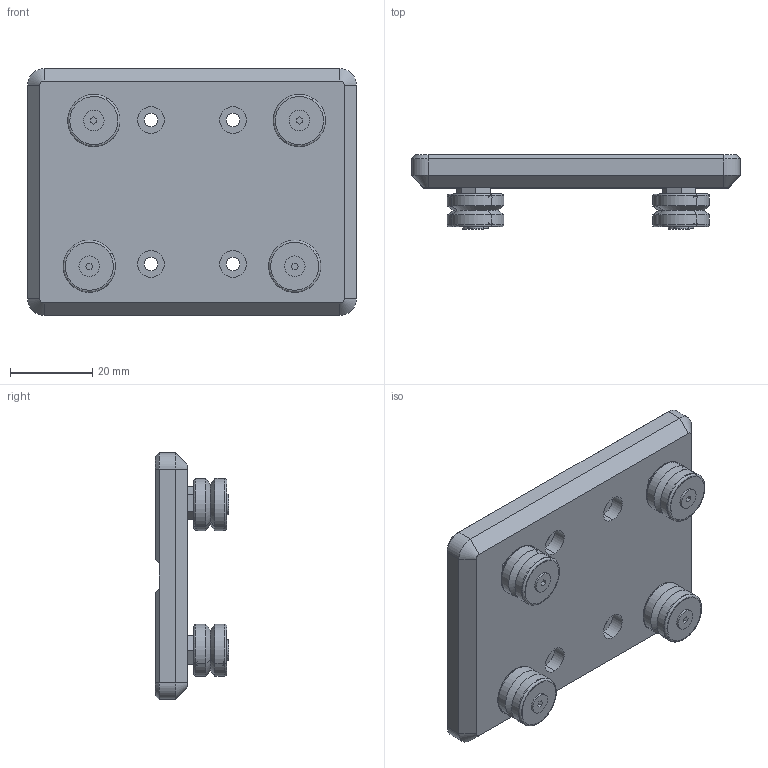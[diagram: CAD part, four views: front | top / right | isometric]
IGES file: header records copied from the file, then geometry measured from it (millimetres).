
Start section: 3D InterOp IGES (Version 21 0 1), Spatial Corp. Copyright (c) 1999-2007.
Global section: file name: RG-80(GF-25N).igs; native system: Spatial Corp.; preprocessor: 3D InterOp GENERIC/IGES 3.0; author: Noname; organization: Noname; date: 20220328.105956; units: millimetre
Bounding box: 80 x 18 x 60 mm (x, y, z)
Surface area: 17912.6 mm2 (no closed solid volume)
Topology: 0 solids, 0 shells, 348 faces, 1564 edges, 1532 vertices
Faces by surface type: revolution 212, extrusion 136
